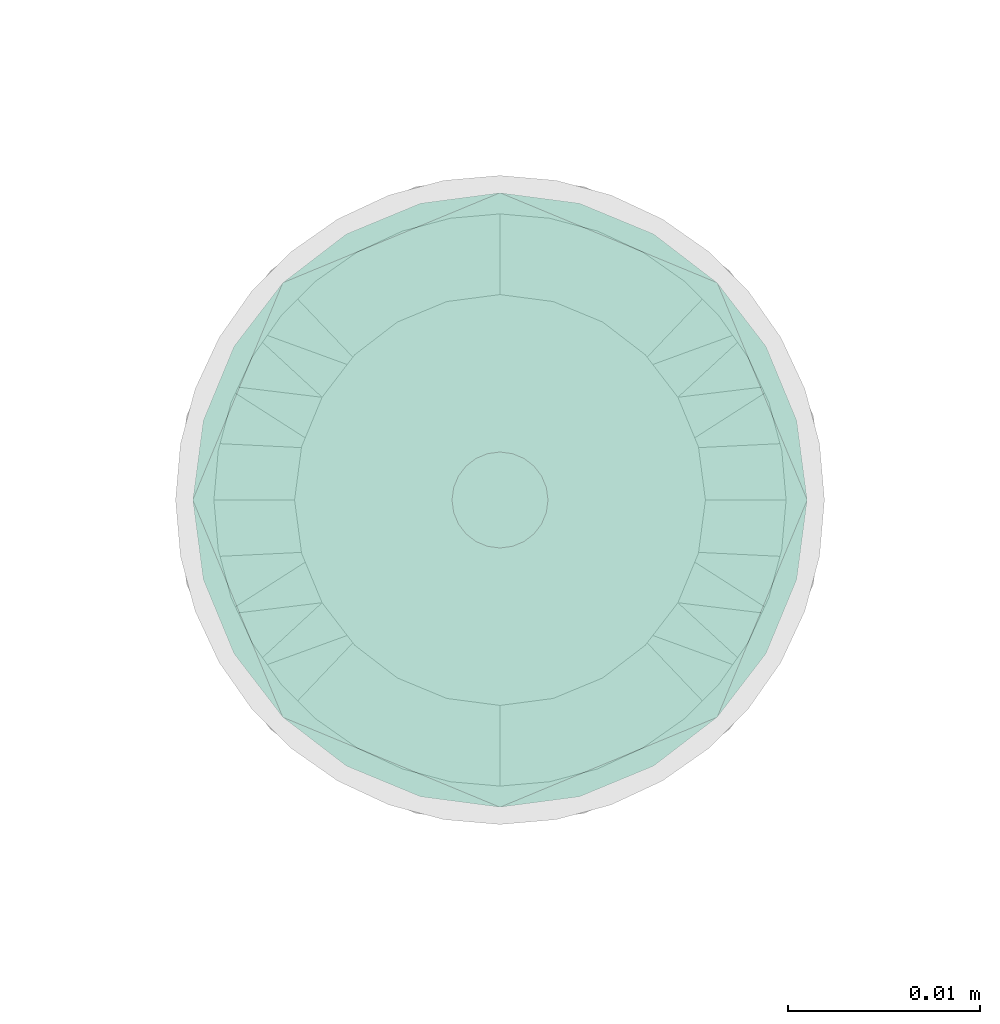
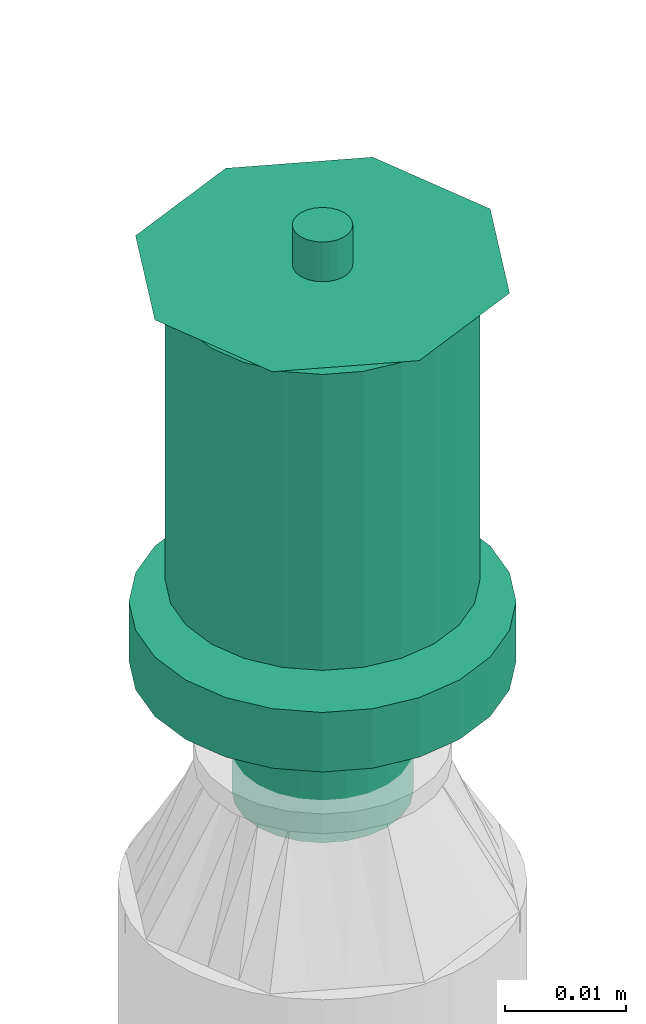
# One storey, part 4 of 44: 1 flow terminal.
"""IFC2X3 building model written with IfcOpenShell, lengths in millimetres."""

from ifc_helpers import new_model, entity, si_unit, converted_unit, derived_unit, direction, frame, origin_with_axes, place, context, subcontext, project, spatial, open_shell, surface_model, source, transform, mapped, type_object, element, save


model = new_model("IFC2X3")

# Units and contexts
model_context = context("Model", 3, precision=0.01, world=frame((0.0, 4.29681676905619e-09, 0.0)), true_north=direction((4.01073788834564e-13, 1.0)))
plan_context = context("Plan", 3, precision=0.01, world=frame((0.0, 4.29681676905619e-09, 0.0)), true_north=direction((4.01073788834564e-13, 1.0)))
body_context = subcontext(model_context, "Body", "Model", "MODEL_VIEW")
ifc_project = project(units=[converted_unit("PLANEANGLEUNIT", "DEGREE", entity("IfcPositiveLengthMeasure", 0.0174532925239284), si_unit("PLANEANGLEUNIT", "RADIAN"), dimensions=[0, 0, 0, 0, 0, 0, 0]), si_unit("AREAUNIT", "SQUARE_METRE"), si_unit("LENGTHUNIT", "METRE", prefix="MILLI"), si_unit("MASSUNIT", "GRAM", prefix="KILO"), si_unit("POWERUNIT", "WATT"), si_unit("PRESSUREUNIT", "PASCAL"), si_unit("FORCEUNIT", "NEWTON", prefix="KILO"), si_unit("ELECTRICVOLTAGEUNIT", "VOLT"), si_unit("ELECTRICCURRENTUNIT", "AMPERE"), si_unit("THERMODYNAMICTEMPERATUREUNIT", "DEGREE_CELSIUS"), si_unit("TIMEUNIT", "SECOND"), si_unit("VOLUMEUNIT", "CUBIC_METRE"), derived_unit("LINEARVELOCITYUNIT", [(si_unit("LENGTHUNIT", "METRE"), 1), (si_unit("TIMEUNIT", "SECOND"), -1)]), derived_unit("VOLUMETRICFLOWRATEUNIT", [(si_unit("VOLUMEUNIT", "CUBIC_METRE"), 1), (si_unit("TIMEUNIT", "SECOND"), -1)]), derived_unit("THERMALTRANSMITTANCEUNIT", [(si_unit("POWERUNIT", "WATT"), 1), (si_unit("THERMODYNAMICTEMPERATUREUNIT", "KELVIN"), -1), (si_unit("AREAUNIT", "SQUARE_METRE"), -1)]), derived_unit("SOUNDPRESSUREUNIT", [(si_unit("PRESSUREUNIT", "PASCAL"), 1)])], contexts=[model_context, plan_context])

# Site, building, storey
site_placement = place(None, frame((0.0, -4.29681676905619e-09, 0.0), z_axis=(0.0, 0.0, 1.0), x_axis=(1.0, 0.0, 0.0)))
site = spatial("IfcSite", under=ifc_project, at=site_placement, CompositionType="ELEMENT")
building_placement = place(site_placement, frame((0.0, 4.29681676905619e-09, 0.0), z_axis=(0.0, 0.0, 1.0), x_axis=(1.0, 0.0, 0.0)))
building = spatial("IfcBuilding", under=site, at=building_placement, Name="mc-building", CompositionType="ELEMENT")
storey_placement = place(building_placement, frame((0.0, 0.0, 207370.0), z_axis=(0.0, 0.0, 1.0), x_axis=(1.0, 0.0, 0.0)))
storey = spatial("IfcBuildingStorey", under=building, at=storey_placement, Name="Nivå E", CompositionType="ELEMENT", Elevation=207370.0)

# Flow terminal
fire_suppression_terminal_type = type_object("IfcFireSuppressionTerminalType", Name="68DGR-STD-STÅENDE", PredefinedType="NOTDEFINED")
shared_shape = source(origin_with_axes(), body_context, "Body", "SurfaceModel", [
    surface_model("IfcShellBasedSurfaceModel", [(3.36465, -12.55704, 51.0), (6.5, -11.25833, 51.0), (9.19239, -9.19239, 51.0), (12.55704, -3.36465, 51.0), (-11.25833, -6.5, 51.0), (11.25833, -6.5, 51.0), (-13.0, 0.0, 51.0), (0.0, -13.0, 51.0), (-6.5, -11.25833, 51.0), (-3.36465, -12.55704, 51.0), (-9.19239, -9.19239, 51.0), (-12.55704, -3.36465, 51.0), (13.0, 0.0, 51.0), (12.55704, 3.36465, 51.0), (11.25833, 6.5, 51.0), (9.19239, 9.19239, 51.0), (6.5, 11.25833, 51.0), (3.36465, 12.55704, 51.0), (0.0, 13.0, 51.0), (-3.36465, 12.55704, 51.0), (-12.55704, 3.36465, 51.0), (-9.19239, 9.19239, 51.0), (-11.25833, 6.5, 51.0), (-6.5, 11.25833, 51.0), (0.0, 13.0, 21.14766), (3.36465, 12.55704, 21.14766), (6.5, 11.25833, 21.14766), (-3.36465, 12.55704, 21.14766), (9.19239, 9.19239, 21.14766), (11.25833, 6.5, 21.14766), (12.55704, 3.36465, 21.14766), (-12.55704, 3.36465, 21.14766), (-11.25833, -6.5, 21.14766), (-9.19239, 9.19239, 21.14766), (-6.5, 11.25833, 21.14766), (-11.25833, 6.5, 21.14766), (-13.0, 0.0, 21.14766), (12.55704, -3.36465, 21.14766), (9.19239, -9.19239, 21.14766), (11.25833, -6.5, 21.14766), (6.5, -11.25833, 21.14766), (3.36465, -12.55704, 21.14766), (-6.5, -11.25833, 21.14766), (-9.19239, -9.19239, 21.14766), (-12.55704, -3.36465, 21.14766), (0.0, -13.0, 21.14766), (-3.36465, -12.55704, 21.14766), (13.0, 0.0, 21.14766), (7.24444, -1.94114, 0.1), (1.94114, -7.24444, 0.1), (3.75, -6.49519, 0.1), (5.3033, -5.3033, 0.1), (-5.3033, -5.3033, 0.1), (6.49519, -3.75, 0.1), (5.3033, 5.3033, 0.1), (0.0, -7.5, 0.1), (-3.75, -6.49519, 0.1), (-1.94114, -7.24444, 0.1), (-7.24444, -1.94114, 0.1), (-6.49519, -3.75, 0.1), (-7.24444, 1.94114, 0.1), (7.5, 0.0, 0.1), (6.49519, 3.75, 0.1), (-6.49519, 3.75, 0.1), (1.94114, 7.24444, 0.1), (0.0, 7.5, 0.1), (3.75, 6.49519, 0.1), (-7.5, 0.0, 0.1), (-5.3033, 5.3033, 0.1), (-1.94114, 7.24444, 0.1), (-3.75, 6.49519, 0.1), (7.24444, 1.94114, 0.1), (1.94114, 7.24444, -0.1), (-6.49519, 3.75, -0.1), (0.0, 7.5, -0.1), (5.3033, 5.3033, -0.1), (3.75, 6.49519, -0.1), (6.49519, 3.75, -0.1), (7.24444, 1.94114, -0.1), (-1.94114, 7.24444, -0.1), (-5.3033, 5.3033, -0.1), (-3.75, 6.49519, -0.1), (-7.24444, 1.94114, -0.1), (-7.24444, -1.94114, -0.1), (-7.5, 0.0, -0.1), (7.5, 0.0, -0.1), (7.24444, -1.94114, -0.1), (-5.3033, -5.3033, -0.1), (1.94114, -7.24444, -0.1), (6.49519, -3.75, -0.1), (5.3033, -5.3033, -0.1), (3.75, -6.49519, -0.1), (-6.49519, -3.75, -0.1), (-3.75, -6.49519, -0.1), (0.0, -7.5, -0.1), (-1.94114, -7.24444, -0.1), (0.0, -2.5, 51.0), (-2.5, 0.0, 51.0), (0.0, 2.5, 51.0), (2.5, 0.0, 51.0), (0.0, -16.0, 53.0), (11.31371, -11.31371, 53.0), (-11.31371, -11.31371, 53.0), (-16.0, 0.0, 53.0), (16.0, 0.0, 53.0), (11.31371, 11.31371, 53.0), (0.0, 16.0, 53.0), (-11.31371, 11.31371, 53.0), (1.25, -2.16506, 57.0), (0.0, -2.5, 57.0), (0.64705, -2.41481, 57.0), (2.41481, -0.64705, 57.0), (1.76777, -1.76777, 57.0), (-2.41481, -0.64705, 57.0), (-2.5, 0.0, 57.0), (2.16506, -1.25, 57.0), (-1.25, -2.16506, 57.0), (-0.64705, -2.41481, 57.0), (-1.76777, -1.76777, 57.0), (-2.16506, -1.25, 57.0), (2.5, 0.0, 57.0), (2.41481, 0.64705, 57.0), (2.16506, 1.25, 57.0), (1.76777, 1.76777, 57.0), (0.64705, 2.41481, 57.0), (1.25, 2.16506, 57.0), (-1.76777, 1.76777, 57.0), (0.0, 2.5, 57.0), (-2.16506, 1.25, 57.0), (-2.41481, 0.64705, 57.0), (-0.64705, 2.41481, 57.0), (-1.25, 2.16506, 57.0), (1.25, 2.16506, 51.0), (1.76777, 1.76777, 51.0), (1.15, 1.99186, 51.0), (0.59528, 2.22163, 51.0), (0.64705, 2.41481, 51.0), (0.0, 2.3, 51.0), (1.62635, 1.62635, 51.0), (2.41481, 0.64705, 51.0), (2.3, 0.0, 51.0), (2.22163, 0.59528, 51.0), (2.16506, 1.25, 51.0), (1.99186, 1.15, 51.0), (-0.59528, 2.22163, 51.0), (-0.64705, 2.41481, 51.0), (-1.15, 1.99186, 51.0), (-1.76777, 1.76777, 51.0), (-1.25, 2.16506, 51.0), (-1.62635, 1.62635, 51.0), (-1.99186, 1.15, 51.0), (-2.16506, 1.25, 51.0), (-2.22163, 0.59528, 51.0), (-2.41481, 0.64705, 51.0), (-2.3, 0.0, 51.0), (2.41481, -0.64705, 51.0), (2.22163, -0.59528, 51.0), (1.99186, -1.15, 51.0), (2.16506, -1.25, 51.0), (1.62635, -1.62635, 51.0), (1.76777, -1.76777, 51.0), (1.25, -2.16506, 51.0), (1.15, -1.99186, 51.0), (0.59528, -2.22163, 51.0), (0.64705, -2.41481, 51.0), (0.0, -2.3, 51.0), (-2.16506, -1.25, 51.0), (-1.99186, -1.15, 51.0), (-1.76777, -1.76777, 51.0), (-1.62635, -1.62635, 51.0), (-2.41481, -0.64705, 51.0), (-2.22163, -0.59528, 51.0), (-0.59528, -2.22163, 51.0), (-0.64705, -2.41481, 51.0), (-1.15, -1.99186, 51.0), (-1.25, -2.16506, 51.0), (1.62635, -1.62635, 56.8), (1.15, -1.99186, 56.8), (0.59528, -2.22163, 56.8), (0.0, -2.3, 56.8), (2.22163, 0.59528, 56.8), (1.99186, -1.15, 56.8), (2.22163, -0.59528, 56.8), (-0.59528, -2.22163, 56.8), (-1.15, -1.99186, 56.8), (-1.62635, -1.62635, 56.8), (-1.99186, -1.15, 56.8), (-2.22163, -0.59528, 56.8), (-1.99186, 1.15, 56.8), (2.3, 0.0, 56.8), (1.62635, 1.62635, 56.8), (1.99186, 1.15, 56.8), (1.15, 1.99186, 56.8), (0.0, 2.3, 56.8), (0.59528, 2.22163, 56.8), (-2.22163, 0.59528, 56.8), (-2.3, 0.0, 56.8), (-1.15, 1.99186, 56.8), (-0.59528, 2.22163, 56.8), (-1.62635, 1.62635, 56.8), (4.1411, -15.45481, 19.0), (8.0, -13.85641, 19.0), (11.31371, -11.31371, 19.0), (-8.0, -13.85641, 19.0), (15.45481, -4.1411, 19.0), (16.0, 0.0, 19.0), (13.85641, -8.0, 19.0), (0.0, -16.0, 19.0), (-4.1411, -15.45481, 19.0), (-13.85641, -8.0, 19.0), (-11.31371, -11.31371, 19.0), (-15.45481, -4.1411, 19.0), (15.45481, 4.1411, 19.0), (13.85641, 8.0, 19.0), (11.31371, 11.31371, 19.0), (-4.1411, 15.45481, 19.0), (8.0, 13.85641, 19.0), (4.1411, 15.45481, 19.0), (0.0, 16.0, 19.0), (-13.85641, 8.0, 19.0), (-15.45481, 4.1411, 19.0), (-16.0, 0.0, 19.0), (-11.31371, 11.31371, 19.0), (-8.0, 13.85641, 19.0), (0.0, 16.0, 13.0), (4.1411, 15.45481, 13.0), (8.0, 13.85641, 13.0), (-4.1411, 15.45481, 13.0), (11.31371, 11.31371, 13.0), (13.85641, 8.0, 13.0), (15.45481, 4.1411, 13.0), (-15.45481, -4.1411, 13.0), (-11.31371, 11.31371, 13.0), (-8.0, 13.85641, 13.0), (-13.85641, 8.0, 13.0), (-15.45481, 4.1411, 13.0), (-16.0, 0.0, 13.0), (4.1411, -15.45481, 13.0), (16.0, 0.0, 13.0), (15.45481, -4.1411, 13.0), (13.85641, -8.0, 13.0), (11.31371, -11.31371, 13.0), (8.0, -13.85641, 13.0), (-8.0, -13.85641, 13.0), (-13.85641, -8.0, 13.0), (-11.31371, -11.31371, 13.0), (0.0, -16.0, 13.0), (-4.1411, -15.45481, 13.0), (7.24444, -1.94114, 13.0), (1.94114, -7.24444, 13.0), (3.75, -6.49519, 13.0), (5.3033, -5.3033, 13.0), (-5.3033, -5.3033, 13.0), (6.49519, -3.75, 13.0), (5.3033, 5.3033, 13.0), (0.0, -7.5, 13.0), (-3.75, -6.49519, 13.0), (-1.94114, -7.24444, 13.0), (-7.24444, -1.94114, 13.0), (-6.49519, -3.75, 13.0), (-7.24444, 1.94114, 13.0), (7.5, 0.0, 13.0), (6.49519, 3.75, 13.0), (-6.49519, 3.75, 13.0), (1.94114, 7.24444, 13.0), (0.0, 7.5, 13.0), (3.75, 6.49519, 13.0), (-7.5, 0.0, 13.0), (-5.3033, 5.3033, 13.0), (-1.94114, 7.24444, 13.0), (-3.75, 6.49519, 13.0), (7.24444, 1.94114, 13.0), (3.75, 6.49519, 0.0), (5.3033, 5.3033, 0.0), (3.65, 6.32199, 0.0), (1.88938, 7.05126, 0.0), (0.0, 7.3, 0.0), (1.94114, 7.24444, 0.0), (0.0, 7.5, 0.0), (5.16188, 5.16188, 0.0), (7.24444, 1.94114, 0.0), (7.3, 0.0, 0.0), (7.05126, 1.88938, 0.0), (7.5, 0.0, 0.0), (6.49519, 3.75, 0.0), (6.32199, 3.65, 0.0), (-1.88938, 7.05126, 0.0), (-1.94114, 7.24444, 0.0), (-3.65, 6.32199, 0.0), (-5.3033, 5.3033, 0.0), (-3.75, 6.49519, 0.0), (-5.16188, 5.16188, 0.0), (-6.32199, 3.65, 0.0), (-6.49519, 3.75, 0.0), (-7.05126, 1.88938, 0.0), (-7.24444, 1.94114, 0.0), (-7.3, 0.0, 0.0), (-7.5, 0.0, 0.0), (7.24444, -1.94114, 0.0), (7.05126, -1.88938, 0.0), (6.32199, -3.65, 0.0), (6.49519, -3.75, 0.0), (5.16188, -5.16188, 0.0), (5.3033, -5.3033, 0.0), (3.75, -6.49519, 0.0), (3.65, -6.32199, 0.0), (1.88938, -7.05126, 0.0), (1.94114, -7.24444, 0.0), (0.0, -7.3, 0.0), (0.0, -7.5, 0.0), (-6.49519, -3.75, 0.0), (-6.32199, -3.65, 0.0), (-5.3033, -5.3033, 0.0), (-5.16188, -5.16188, 0.0), (-7.24444, -1.94114, 0.0), (-7.05126, -1.88938, 0.0), (-1.88938, -7.05126, 0.0), (-1.94114, -7.24444, 0.0), (-3.65, -6.32199, 0.0), (-3.75, -6.49519, 0.0), (1.88938, -7.05126, 12.8), (0.0, -7.3, 12.8), (3.65, -6.32199, 12.8), (5.16188, -5.16188, 12.8), (6.32199, -3.65, 12.8), (7.05126, 1.88938, 12.8), (7.05126, -1.88938, 12.8), (-5.16188, -5.16188, 12.8), (-1.88938, -7.05126, 12.8), (-3.65, -6.32199, 12.8), (-6.32199, -3.65, 12.8), (-7.05126, -1.88938, 12.8), (0.0, 7.3, 12.8), (7.3, 0.0, 12.8), (6.32199, 3.65, 12.8), (5.16188, 5.16188, 12.8), (3.65, 6.32199, 12.8), (1.88938, 7.05126, 12.8), (-6.32199, 3.65, 12.8), (-7.05126, 1.88938, 12.8), (-7.3, 0.0, 12.8), (-3.65, 6.32199, 12.8), (-1.88938, 7.05126, 12.8), (-5.16188, 5.16188, 12.8)], [open_shell([[[0, 1, 2]], [[0, 2, 3]], [[0, 3, 4]], [[3, 2, 5]], [[6, 4, 3]], [[7, 8, 9]], [[7, 0, 8]], [[8, 4, 10]], [[0, 4, 8]], [[4, 6, 11]], [[6, 3, 12]], [[13, 14, 15]], [[6, 13, 15]], [[16, 17, 18]], [[15, 16, 19]], [[18, 19, 16]], [[20, 21, 22]], [[20, 6, 15]], [[21, 19, 23]], [[19, 21, 20]], [[15, 19, 20]], [[13, 6, 12]], [[24, 25, 26]], [[27, 24, 26]], [[28, 29, 30]], [[26, 28, 31]], [[28, 32, 31]], [[27, 33, 34]], [[33, 27, 31]], [[33, 31, 35]], [[27, 26, 31]], [[31, 32, 36]], [[32, 28, 30]], [[32, 30, 37]], [[38, 37, 39]], [[38, 40, 41]], [[38, 41, 37]], [[32, 37, 41]], [[32, 42, 43]], [[44, 36, 32]], [[42, 45, 46]], [[42, 32, 41]], [[45, 42, 41]], [[30, 47, 37]], [[4, 32, 43]], [[8, 42, 46]], [[43, 42, 10]], [[9, 46, 45]], [[36, 11, 6]], [[11, 36, 44]], [[11, 44, 4]], [[44, 32, 4]], [[43, 10, 4]], [[8, 10, 42]], [[46, 9, 8]], [[45, 7, 9]], [[0, 41, 40]], [[38, 1, 40]], [[5, 39, 37]], [[38, 39, 2]], [[3, 37, 47]], [[41, 0, 7]], [[40, 1, 0]], [[38, 2, 1]], [[39, 5, 2]], [[3, 5, 37]], [[47, 12, 3]], [[41, 7, 45]], [[30, 13, 47]], [[29, 14, 30]], [[25, 24, 17]], [[15, 29, 28]], [[30, 14, 13]], [[13, 12, 47]], [[16, 26, 17]], [[16, 15, 28]], [[26, 25, 17]], [[15, 14, 29]], [[28, 26, 16]], [[24, 18, 17]], [[19, 27, 34]], [[33, 23, 34]], [[22, 35, 31]], [[33, 35, 21]], [[20, 31, 36]], [[27, 19, 18]], [[34, 23, 19]], [[33, 21, 23]], [[35, 22, 21]], [[20, 22, 31]], [[36, 6, 20]], [[27, 18, 24]], [[48, 49, 50]], [[48, 50, 51]], [[49, 48, 52]], [[48, 51, 53]], [[54, 52, 48]], [[55, 56, 57]], [[56, 55, 52]], [[52, 58, 59]], [[52, 55, 49]], [[52, 60, 58]], [[54, 48, 61]], [[62, 54, 61]], [[54, 63, 52]], [[64, 65, 54]], [[64, 54, 66]], [[63, 54, 65]], [[63, 60, 52]], [[67, 58, 60]], [[68, 69, 70]], [[69, 68, 63]], [[69, 63, 65]], [[71, 62, 61]], [[72, 73, 74]], [[75, 72, 76]], [[75, 77, 78]], [[72, 75, 73]], [[78, 73, 75]], [[79, 80, 81]], [[80, 79, 73]], [[74, 73, 79]], [[78, 82, 73]], [[82, 83, 84]], [[82, 78, 85]], [[86, 87, 85]], [[88, 86, 89]], [[90, 91, 88]], [[90, 88, 89]], [[87, 86, 88]], [[83, 87, 92]], [[83, 85, 87]], [[93, 94, 95]], [[94, 93, 87]], [[88, 94, 87]], [[85, 83, 82]], [[83, 58, 84]], [[92, 59, 83]], [[56, 87, 93]], [[92, 87, 52]], [[57, 93, 95]], [[83, 59, 58]], [[58, 67, 84]], [[57, 56, 93]], [[52, 87, 56]], [[52, 59, 92]], [[55, 57, 95]], [[95, 94, 55]], [[88, 49, 94]], [[91, 50, 88]], [[53, 90, 89]], [[91, 90, 51]], [[48, 89, 86]], [[91, 51, 50]], [[50, 49, 88]], [[61, 48, 86]], [[53, 89, 48]], [[53, 51, 90]], [[85, 61, 86]], [[94, 49, 55]], [[78, 71, 85]], [[77, 62, 78]], [[66, 75, 76]], [[77, 75, 54]], [[64, 76, 72]], [[78, 62, 71]], [[71, 61, 85]], [[64, 66, 76]], [[54, 75, 66]], [[54, 62, 77]], [[65, 64, 72]], [[72, 74, 65]], [[79, 69, 74]], [[81, 70, 79]], [[63, 80, 73]], [[81, 80, 68]], [[60, 73, 82]], [[81, 68, 70]], [[70, 69, 79]], [[67, 60, 82]], [[63, 73, 60]], [[63, 68, 80]], [[84, 67, 82]], [[74, 69, 65]], [[96, 97, 98]], [[98, 99, 96]], [[100, 101, 102]], [[103, 102, 101]], [[101, 104, 103]], [[104, 105, 106]], [[107, 103, 106]], [[106, 103, 104]], [[99, 98, 105]], [[105, 104, 99]], [[98, 106, 105]], [[98, 107, 106]], [[107, 98, 97]], [[103, 107, 97]], [[97, 96, 102]], [[102, 103, 97]], [[96, 100, 102]], [[96, 101, 100]], [[101, 96, 99]], [[104, 101, 99]], [[108, 109, 110]], [[111, 108, 112]], [[113, 108, 114]], [[111, 112, 115]], [[108, 111, 114]], [[109, 116, 117]], [[116, 109, 118]], [[118, 113, 119]], [[118, 109, 108]], [[108, 113, 118]], [[111, 120, 114]], [[121, 122, 123]], [[114, 121, 123]], [[114, 123, 124]], [[124, 123, 125]], [[126, 124, 127]], [[124, 128, 129]], [[129, 114, 124]], [[126, 130, 131]], [[128, 124, 126]], [[130, 126, 127]], [[121, 114, 120]], [[132, 133, 134]], [[132, 134, 135]], [[136, 135, 137]], [[135, 136, 132]], [[136, 137, 98]], [[134, 133, 138]], [[139, 140, 141]], [[140, 139, 99]], [[139, 141, 142]], [[138, 142, 143]], [[142, 138, 133]], [[143, 142, 141]], [[98, 144, 145]], [[98, 137, 144]], [[145, 144, 146]], [[147, 148, 149]], [[146, 148, 145]], [[149, 148, 146]], [[150, 151, 147]], [[151, 150, 152]], [[150, 147, 149]], [[153, 152, 154]], [[152, 153, 151]], [[153, 154, 97]], [[99, 155, 156]], [[156, 155, 157]], [[157, 158, 159]], [[158, 157, 155]], [[159, 158, 160]], [[160, 161, 162]], [[162, 161, 163]], [[163, 164, 165]], [[164, 163, 161]], [[165, 164, 96]], [[162, 159, 160]], [[166, 167, 168]], [[168, 167, 169]], [[167, 166, 170]], [[97, 171, 170]], [[170, 171, 167]], [[97, 154, 171]], [[172, 96, 173]], [[172, 173, 174]], [[169, 175, 168]], [[175, 169, 174]], [[175, 174, 173]], [[165, 96, 172]], [[156, 140, 99]], [[170, 113, 97]], [[166, 119, 170]], [[116, 168, 175]], [[166, 168, 118]], [[117, 175, 173]], [[170, 119, 113]], [[113, 114, 97]], [[117, 116, 175]], [[118, 168, 116]], [[118, 119, 166]], [[109, 117, 173]], [[173, 96, 109]], [[164, 110, 96]], [[161, 108, 164]], [[115, 160, 158]], [[161, 160, 112]], [[111, 158, 155]], [[161, 112, 108]], [[108, 110, 164]], [[120, 111, 155]], [[115, 158, 111]], [[115, 112, 160]], [[99, 120, 155]], [[96, 110, 109]], [[139, 121, 99]], [[142, 122, 139]], [[125, 133, 132]], [[142, 133, 123]], [[124, 132, 136]], [[139, 122, 121]], [[121, 120, 99]], [[124, 125, 132]], [[123, 133, 125]], [[123, 122, 142]], [[127, 124, 136]], [[136, 98, 127]], [[145, 130, 98]], [[148, 131, 145]], [[128, 147, 151]], [[148, 147, 126]], [[129, 151, 153]], [[148, 126, 131]], [[131, 130, 145]], [[114, 129, 153]], [[128, 151, 129]], [[128, 126, 147]], [[97, 114, 153]], [[98, 130, 127]], [[176, 177, 178]], [[176, 178, 179]], [[180, 176, 179]], [[181, 176, 182]], [[180, 182, 176]], [[183, 184, 179]], [[185, 179, 184]], [[186, 187, 185]], [[185, 187, 188]], [[179, 185, 188]], [[189, 182, 180]], [[190, 191, 180]], [[192, 190, 180]], [[193, 194, 192]], [[180, 193, 192]], [[188, 193, 180]], [[195, 188, 196]], [[196, 188, 187]], [[197, 198, 199]], [[188, 199, 198]], [[188, 198, 193]], [[180, 179, 188]], [[154, 187, 171]], [[171, 186, 167]], [[174, 169, 184]], [[185, 169, 167]], [[172, 174, 183]], [[187, 186, 171]], [[154, 196, 187]], [[174, 184, 183]], [[184, 169, 185]], [[167, 186, 185]], [[172, 183, 179]], [[179, 165, 172]], [[165, 178, 163]], [[163, 177, 162]], [[157, 159, 181]], [[176, 159, 162]], [[156, 157, 182]], [[177, 176, 162]], [[163, 178, 177]], [[156, 182, 189]], [[182, 157, 181]], [[159, 176, 181]], [[156, 189, 140]], [[179, 178, 165]], [[140, 180, 141]], [[141, 191, 143]], [[134, 138, 192]], [[190, 138, 143]], [[135, 134, 194]], [[180, 191, 141]], [[140, 189, 180]], [[134, 192, 194]], [[192, 138, 190]], [[143, 191, 190]], [[135, 194, 193]], [[193, 137, 135]], [[137, 198, 144]], [[144, 197, 146]], [[150, 149, 188]], [[199, 149, 146]], [[152, 150, 195]], [[197, 199, 146]], [[144, 198, 197]], [[152, 195, 196]], [[195, 150, 188]], [[149, 199, 188]], [[152, 196, 154]], [[193, 198, 137]], [[200, 201, 202]], [[203, 200, 202]], [[204, 205, 202]], [[204, 202, 206]], [[203, 202, 205]], [[207, 203, 208]], [[207, 200, 203]], [[203, 209, 210]], [[209, 203, 211]], [[205, 211, 203]], [[205, 212, 211]], [[212, 213, 214]], [[215, 212, 214]], [[216, 217, 218]], [[214, 216, 215]], [[218, 215, 216]], [[211, 219, 220]], [[221, 211, 220]], [[222, 215, 223]], [[215, 222, 219]], [[219, 211, 215]], [[211, 212, 215]], [[224, 225, 226]], [[227, 224, 226]], [[228, 229, 230]], [[227, 226, 228]], [[227, 228, 231]], [[227, 232, 233]], [[232, 227, 234]], [[234, 231, 235]], [[231, 234, 227]], [[235, 231, 236]], [[228, 230, 231]], [[237, 238, 239]], [[237, 239, 240]], [[241, 242, 237]], [[241, 237, 240]], [[238, 237, 243]], [[244, 243, 245]], [[243, 244, 231]], [[243, 246, 247]], [[243, 231, 238]], [[237, 246, 243]], [[238, 231, 230]], [[231, 211, 236]], [[244, 209, 231]], [[203, 245, 243]], [[244, 245, 210]], [[208, 243, 247]], [[231, 209, 211]], [[211, 221, 236]], [[208, 203, 243]], [[210, 245, 203]], [[210, 209, 244]], [[207, 208, 247]], [[247, 246, 207]], [[237, 200, 246]], [[242, 201, 237]], [[206, 241, 240]], [[242, 241, 202]], [[204, 240, 239]], [[242, 202, 201]], [[201, 200, 237]], [[205, 204, 239]], [[206, 240, 204]], [[206, 202, 241]], [[238, 205, 239]], [[246, 200, 207]], [[230, 212, 238]], [[229, 213, 230]], [[216, 228, 226]], [[229, 228, 214]], [[217, 226, 225]], [[230, 213, 212]], [[212, 205, 238]], [[217, 216, 226]], [[214, 228, 216]], [[214, 213, 229]], [[218, 217, 225]], [[225, 224, 218]], [[227, 215, 224]], [[233, 223, 227]], [[219, 232, 234]], [[233, 232, 222]], [[220, 234, 235]], [[233, 222, 223]], [[223, 215, 227]], [[221, 220, 235]], [[219, 234, 220]], [[219, 222, 232]], [[236, 221, 235]], [[224, 215, 218]], [[248, 249, 250]], [[248, 250, 251]], [[249, 248, 252]], [[248, 251, 253]], [[254, 252, 248]], [[255, 256, 257]], [[256, 255, 252]], [[252, 258, 259]], [[252, 255, 249]], [[252, 260, 258]], [[254, 248, 261]], [[262, 254, 261]], [[254, 263, 252]], [[264, 265, 254]], [[264, 254, 266]], [[263, 254, 265]], [[263, 260, 252]], [[267, 258, 260]], [[268, 269, 270]], [[269, 268, 263]], [[269, 263, 265]], [[271, 262, 261]], [[272, 273, 274]], [[272, 274, 275]], [[276, 277, 275]], [[277, 276, 278]], [[275, 277, 272]], [[274, 273, 279]], [[280, 281, 282]], [[281, 280, 283]], [[280, 282, 284]], [[279, 284, 285]], [[284, 279, 273]], [[285, 284, 282]], [[278, 286, 287]], [[287, 286, 288]], [[289, 290, 291]], [[288, 290, 287]], [[288, 291, 290]], [[278, 276, 286]], [[292, 293, 289]], [[293, 292, 294]], [[292, 289, 291]], [[295, 294, 296]], [[294, 295, 293]], [[295, 296, 297]], [[283, 298, 299]], [[299, 298, 300]], [[300, 301, 302]], [[301, 300, 298]], [[302, 301, 303]], [[303, 304, 305]], [[305, 304, 306]], [[306, 307, 308]], [[307, 306, 304]], [[308, 307, 309]], [[305, 302, 303]], [[310, 311, 312]], [[312, 311, 313]], [[311, 310, 314]], [[297, 315, 314]], [[314, 315, 311]], [[297, 296, 315]], [[316, 309, 317]], [[316, 317, 318]], [[313, 319, 312]], [[313, 318, 319]], [[319, 318, 317]], [[308, 309, 316]], [[299, 281, 283]], [[314, 258, 297]], [[310, 259, 314]], [[256, 312, 319]], [[310, 312, 252]], [[257, 319, 317]], [[314, 259, 258]], [[258, 267, 297]], [[257, 256, 319]], [[252, 312, 256]], [[252, 259, 310]], [[255, 257, 317]], [[317, 309, 255]], [[307, 249, 309]], [[304, 250, 307]], [[253, 303, 301]], [[304, 303, 251]], [[248, 301, 298]], [[304, 251, 250]], [[250, 249, 307]], [[261, 248, 298]], [[253, 301, 248]], [[253, 251, 303]], [[283, 261, 298]], [[309, 249, 255]], [[280, 271, 283]], [[284, 262, 280]], [[266, 273, 272]], [[284, 273, 254]], [[264, 272, 277]], [[280, 262, 271]], [[271, 261, 283]], [[264, 266, 272]], [[254, 273, 266]], [[254, 262, 284]], [[265, 264, 277]], [[277, 278, 265]], [[287, 269, 278]], [[290, 270, 287]], [[263, 289, 293]], [[290, 289, 268]], [[260, 293, 295]], [[290, 268, 270]], [[270, 269, 287]], [[267, 260, 295]], [[263, 293, 260]], [[263, 268, 289]], [[297, 267, 295]], [[278, 269, 265]], [[320, 321, 322]], [[323, 322, 324]], [[325, 326, 322]], [[324, 322, 326]], [[322, 327, 325]], [[328, 329, 321]], [[327, 321, 329]], [[330, 331, 327]], [[322, 321, 327]], [[331, 332, 327]], [[326, 325, 333]], [[334, 325, 332]], [[335, 334, 336]], [[332, 337, 336]], [[334, 332, 336]], [[331, 338, 332]], [[339, 338, 340]], [[340, 338, 331]], [[341, 342, 343]], [[332, 338, 343]], [[332, 343, 342]], [[332, 325, 327]], [[296, 331, 315]], [[315, 330, 311]], [[318, 313, 329]], [[327, 313, 311]], [[316, 318, 328]], [[331, 330, 315]], [[296, 340, 331]], [[318, 329, 328]], [[329, 313, 327]], [[311, 330, 327]], [[316, 328, 321]], [[321, 308, 316]], [[308, 320, 306]], [[306, 322, 305]], [[300, 302, 324]], [[323, 302, 305]], [[299, 300, 326]], [[322, 323, 305]], [[306, 320, 322]], [[299, 326, 333]], [[326, 300, 324]], [[302, 323, 324]], [[299, 333, 281]], [[321, 320, 308]], [[281, 325, 282]], [[282, 334, 285]], [[274, 279, 336]], [[335, 279, 285]], [[275, 274, 337]], [[325, 334, 282]], [[281, 333, 325]], [[274, 336, 337]], [[336, 279, 335]], [[285, 334, 335]], [[275, 337, 332]], [[332, 276, 275]], [[276, 342, 286]], [[286, 341, 288]], [[292, 291, 338]], [[343, 291, 288]], [[294, 292, 339]], [[341, 343, 288]], [[286, 342, 341]], [[294, 339, 340]], [[339, 292, 338]], [[291, 343, 338]], [[294, 340, 296]], [[332, 342, 276]]])]),
])
flow_terminal_placement = place(storey_placement, frame((524500.5875, 447269.83177, 3036.95754999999), z_axis=(0.0, 0.0, 1.0), x_axis=(1.0, 0.0, 0.0)))
element("IfcFlowTerminal", 1, at=flow_terminal_placement, inside=storey, type_object=fire_suppression_terminal_type, Name="68DGR-STD-STÅENDE", context=body_context, shape_type="MappedRepresentation", body=[
    mapped(shared_shape, transform((0.0, 0.0, 0.0), scale=1.0)),
])

save(model, "model.ifc")
